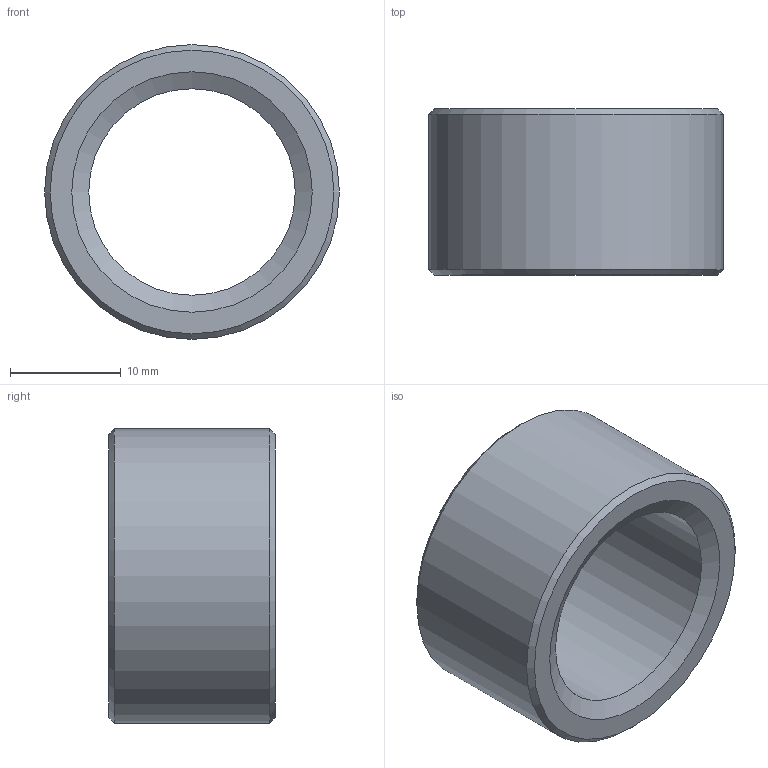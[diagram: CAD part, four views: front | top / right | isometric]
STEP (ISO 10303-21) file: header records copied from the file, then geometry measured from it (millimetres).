
FILE_DESCRIPTION(/* description */ ('STEP AP203'),/* implementation_level */ '2;1');
FILE_NAME(/* name */ 'E43375',/* time_stamp */ '2023-06-20T13:38:54+02:00',/* author */ ('License CC BY-ND 4.0'),/* organization */ ('CADENAS'),/* preprocessor_version */ 'ST-DEVELOPER v19.3',/* originating_system */ 'PARTsolutions',/* authorisation */ ' ');
FILE_SCHEMA (('CONFIG_CONTROL_DESIGN'));
Length unit declared in the file: millimetre
Products named in the file (1): E43375
Bounding box: 26.6 x 15 x 26.6 mm (x, y, z)
Volume: 4150.1 mm3; surface area: 2579.3 mm2
Topology: 1 solids, 1 shells, 8 faces, 14 edges, 8 vertices
Faces by surface type: cone 4, cylinder 2, plane 2
Full cylindrical faces by diameter (mm): 18.631 x1, 26.6 x1
Entity records: 198 total; most frequent: DIRECTION 34, CARTESIAN_POINT 25, AXIS2_PLACEMENT_3D 17, ORIENTED_EDGE 16, EDGE_LOOP 16, FACE_BOUND 16, EDGE_CURVE 8, VERTEX_POINT 8
